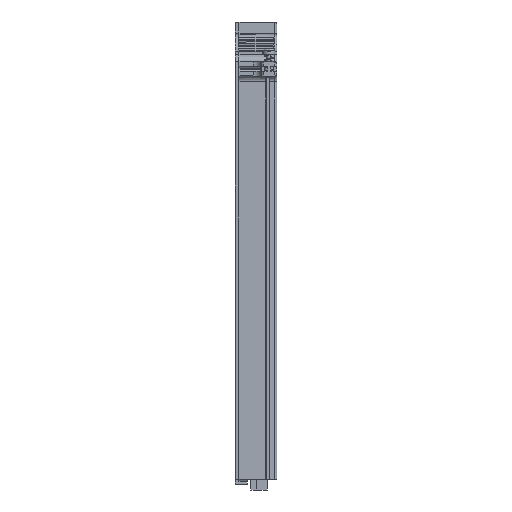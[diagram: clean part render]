
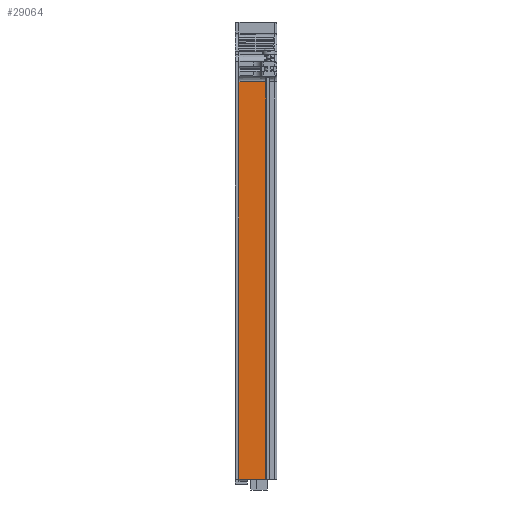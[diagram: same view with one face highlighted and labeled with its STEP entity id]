
A CAD part, left-side view. The second image highlights one B-rep face of the part: STEP entity #29064.
In plain terms, the highlighted planar face has unit normal (-1, 0.009, 0).
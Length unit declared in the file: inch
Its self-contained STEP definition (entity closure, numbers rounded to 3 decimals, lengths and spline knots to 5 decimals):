
#22078=DIRECTION('',(0.,0.,1.));
#22079=VECTOR('',#22078,8.17957);
#22080=CARTESIAN_POINT('',(-2.62457,0.78,-4.70457));
#22081=LINE('',#22080,#22079);
#22298=DIRECTION('',(0.,0.,1.));
#22299=VECTOR('',#22298,8.18441);
#22300=CARTESIAN_POINT('',(-2.62941,0.2251,
-4.70941));
#22301=LINE('',#22300,#22299);
#22302=DIRECTION('',(0.009,1.,0.009));
#22303=VECTOR('',#22302,0.55494);
#22304=CARTESIAN_POINT('',(-2.62941,0.2251,
-4.70941));
#22305=LINE('',#22304,#22303);
#24438=DIRECTION('',(-0.009,-1.,0.));
#24439=VECTOR('',#24438,0.55492);
#24440=CARTESIAN_POINT('',(-2.62457,0.78,3.475));
#24441=LINE('',#24440,#24439);
#26080=CARTESIAN_POINT('',(-2.62457,0.78,-4.70457));
#26081=CARTESIAN_POINT('',(-2.62457,0.78,3.475));
#26082=VERTEX_POINT('',#26080);
#26083=VERTEX_POINT('',#26081);
#26086=CARTESIAN_POINT('',(-2.62941,0.2251,
-4.70941));
#26087=CARTESIAN_POINT('',(-2.62941,0.2251,3.475));
#26088=VERTEX_POINT('',#26086);
#26089=VERTEX_POINT('',#26087);
#29051=CARTESIAN_POINT('',(-2.63,0.158,-4.84685));
#29052=DIRECTION('',(-1.,0.009,0.));
#29053=DIRECTION('',(0.,0.,-1.));
#29054=AXIS2_PLACEMENT_3D('',#29051,#29052,#29053);
#29055=PLANE('',#29054);
#29057=ORIENTED_EDGE('',*,*,#29056,.F.);
#29058=ORIENTED_EDGE('',*,*,#28954,.T.);
#29059=ORIENTED_EDGE('',*,*,#28782,.T.);
#29061=ORIENTED_EDGE('',*,*,#29060,.T.);
#29062=EDGE_LOOP('',(#29057,#29058,#29059,#29061));
#29063=FACE_OUTER_BOUND('',#29062,.F.);
#29064=ADVANCED_FACE('',(#29063),#29055,.T.);
#28782=EDGE_CURVE('',#26082,#26083,#22081,.T.);
#28954=EDGE_CURVE('',#26088,#26082,#22305,.T.);
#29056=EDGE_CURVE('',#26088,#26089,#22301,.T.);
#29060=EDGE_CURVE('',#26083,#26089,#24441,.T.);
